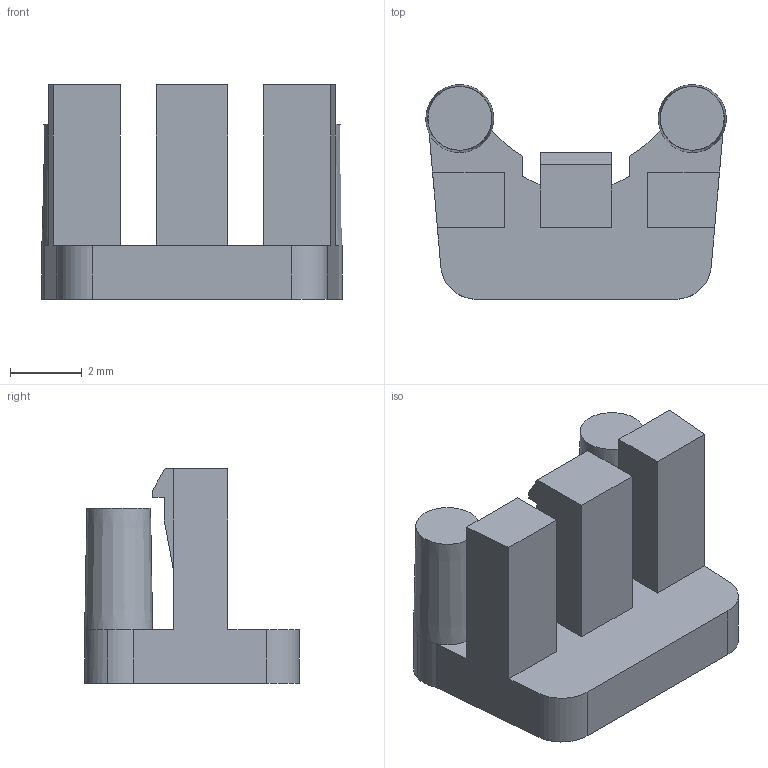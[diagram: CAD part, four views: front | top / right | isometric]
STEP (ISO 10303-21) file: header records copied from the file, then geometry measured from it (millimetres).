
FILE_DESCRIPTION( ( '' ), '1' );
FILE_NAME( '//expscmdclustefs.cadenas.external/client_exchange/iodir/jobs/output/wkb45454203_no0/STEP/216405_2_03.stp', '2012-05-30T15:49:22', ( '' ), ( '' ), ' ', ' ', ' ' );
FILE_SCHEMA( ( 'CONFIG_CONTROL_DESIGN' ) );
Length unit declared in the file: millimetre
Products named in the file (1): 1
Bounding box: 8.4 x 6 x 6 mm (x, y, z)
Volume: 110.8 mm3; surface area: 251.6 mm2
Topology: 1 solids, 1 shells, 40 faces, 110 edges, 72 vertices
Faces by surface type: plane 26, cylinder 10, cone 4
Entity records: 1317 total; most frequent: CARTESIAN_POINT 223, DIRECTION 223, ORIENTED_EDGE 220, EDGE_CURVE 110, LINE 79, VECTOR 79, AXIS2_PLACEMENT_3D 72, VERTEX_POINT 72
